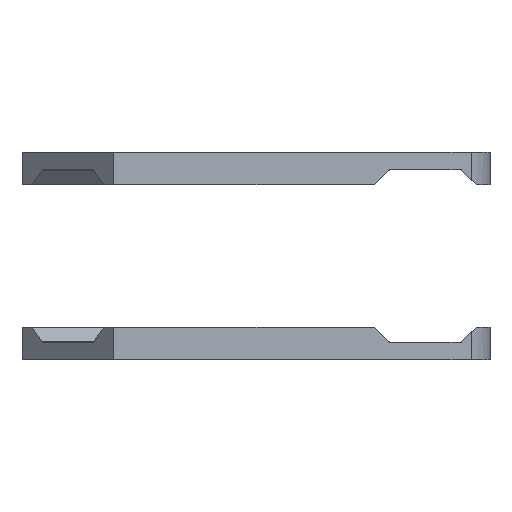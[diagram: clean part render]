
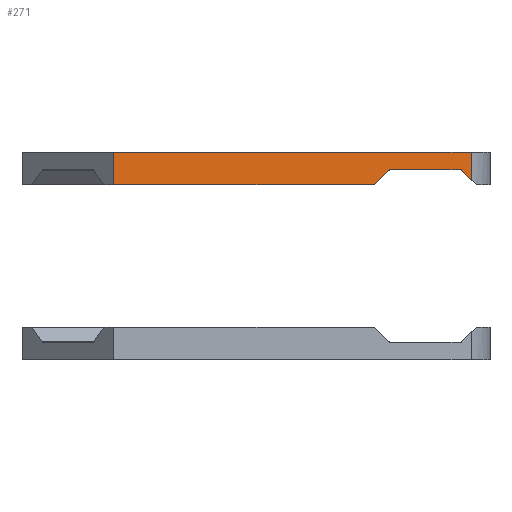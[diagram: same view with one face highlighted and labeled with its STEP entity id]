
A CAD part, left-side view. The second image highlights one B-rep face of the part: STEP entity #271.
In plain terms, the highlighted planar face has unit normal (-0.707, -0.707, 0).
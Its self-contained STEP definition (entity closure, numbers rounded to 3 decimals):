
#271=ADVANCED_FACE('Pad.1',(#667),#668,.T.);
#667=FACE_OUTER_BOUND('',#1216,.T.);
#668=PLANE('',#1217);
#1216=EDGE_LOOP('',(#1996,#1997,#1998,#1999,#2000,#2001,#2002,#2003,#2004));
#1217=AXIS2_PLACEMENT_3D('',#2005,#2006,#2007);
#1996=ORIENTED_EDGE('',*,*,#3391,.F.);
#1997=ORIENTED_EDGE('',*,*,#3366,.F.);
#1998=ORIENTED_EDGE('',*,*,#3392,.T.);
#1999=ORIENTED_EDGE('',*,*,#3393,.T.);
#2000=ORIENTED_EDGE('',*,*,#3394,.T.);
#2001=ORIENTED_EDGE('',*,*,#3328,.T.);
#2002=ORIENTED_EDGE('',*,*,#3389,.T.);
#2003=ORIENTED_EDGE('',*,*,#3395,.T.);
#2004=ORIENTED_EDGE('',*,*,#3396,.T.);
#2005=CARTESIAN_POINT('',(-186.676,144.25,0.0));
#2006=DIRECTION('',(-0.707,-0.707,0.0));
#2007=DIRECTION('',(0.707,-0.707,0.0));
#3328=EDGE_CURVE('',#4042,#4040,#4043,.T.);
#3366=EDGE_CURVE('',#4095,#4097,#4098,.T.);
#3389=EDGE_CURVE('',#4040,#4133,#4135,.F.);
#3391=EDGE_CURVE('',#4097,#4137,#4138,.T.);
#3392=EDGE_CURVE('',#4095,#4139,#4140,.T.);
#3393=EDGE_CURVE('',#4139,#4141,#4142,.T.);
#3394=EDGE_CURVE('',#4141,#4042,#4143,.F.);
#3395=EDGE_CURVE('',#4133,#4144,#4145,.T.);
#3396=EDGE_CURVE('',#4144,#4137,#4146,.T.);
#4040=VERTEX_POINT('',#5015);
#4042=VERTEX_POINT('',#5018);
#4043=LINE('',#5019,#5020);
#4095=VERTEX_POINT('',#5079);
#4097=VERTEX_POINT('',#5082);
#4098=LINE('',#5083,#5084);
#4133=VERTEX_POINT('',#5136);
#4135=B_SPLINE_CURVE_WITH_KNOTS('',5,(#5139,#5140,#5141,#5142,#5143,#5144,#5145,#5146,#5147),.UNSPECIFIED.,.F.,.F.,(6,3,6),(0.0,1.018,1.496),.UNSPECIFIED.);
#4137=VERTEX_POINT('',#5149);
#4138=LINE('',#5150,#5151);
#4139=VERTEX_POINT('',#5152);
#4140=LINE('',#5153,#5154);
#4141=VERTEX_POINT('',#5155);
#4142=LINE('',#5156,#5157);
#4143=B_SPLINE_CURVE_WITH_KNOTS('',5,(#5158,#5159,#5160,#5161,#5162,#5163,#5164,#5165,#5166),.UNSPECIFIED.,.F.,.F.,(6,3,6),(0.0,1.225,1.496),.UNSPECIFIED.);
#4144=VERTEX_POINT('',#5167);
#4145=LINE('',#5168,#5169);
#4146=LINE('',#5170,#5171);
#5015=CARTESIAN_POINT('',(-26.272,-16.154,40.0));
#5018=CARTESIAN_POINT('',(-58.581,16.154,40.0));
#5019=CARTESIAN_POINT('',(-42.426,0.,40.0));
#5020=VECTOR('',#6177,1.0);
#5079=CARTESIAN_POINT('',(-186.676,144.25,33.0));
#5082=CARTESIAN_POINT('',(-186.676,144.25,48.0));
#5083=CARTESIAN_POINT('',(-186.676,144.25,40.5));
#5084=VECTOR('',#6261,1.0);
#5136=CARTESIAN_POINT('',(-25.565,-16.861,39.707));
#5139=CARTESIAN_POINT('',(-25.565,-16.861,39.707));
#5140=CARTESIAN_POINT('',(-25.648,-16.778,39.79));
#5141=CARTESIAN_POINT('',(-25.739,-16.687,39.857));
#5142=CARTESIAN_POINT('',(-25.835,-16.591,39.909));
#5143=CARTESIAN_POINT('',(-25.98,-16.446,39.965));
#5144=CARTESIAN_POINT('',(-26.129,-16.298,39.991));
#5145=CARTESIAN_POINT('',(-26.176,-16.25,39.997));
#5146=CARTESIAN_POINT('',(-26.224,-16.202,40.0));
#5147=CARTESIAN_POINT('',(-26.272,-16.154,40.0));
#5149=CARTESIAN_POINT('',(-21.213,-21.213,48.0));
#5150=CARTESIAN_POINT('',(-103.945,61.518,48.0));
#5151=VECTOR('',#6285,1.0);
#5152=CARTESIAN_POINT('',(-65.995,23.569,33.0));
#5153=CARTESIAN_POINT('',(-126.336,83.909,33.0));
#5154=VECTOR('',#6286,1.0);
#5155=CARTESIAN_POINT('',(-59.288,16.861,39.707));
#5156=CARTESIAN_POINT('',(-62.641,20.215,36.354));
#5157=VECTOR('',#6287,1.0);
#5158=CARTESIAN_POINT('',(-58.581,16.154,40.0));
#5159=CARTESIAN_POINT('',(-58.703,16.277,40.0));
#5160=CARTESIAN_POINT('',(-58.826,16.399,39.981));
#5161=CARTESIAN_POINT('',(-58.946,16.52,39.944));
#5162=CARTESIAN_POINT('',(-59.089,16.663,39.874));
#5163=CARTESIAN_POINT('',(-59.22,16.793,39.77));
#5164=CARTESIAN_POINT('',(-59.243,16.817,39.75));
#5165=CARTESIAN_POINT('',(-59.266,16.839,39.729));
#5166=CARTESIAN_POINT('',(-59.288,16.861,39.707));
#5167=CARTESIAN_POINT('',(-21.213,-21.213,35.355));
#5168=CARTESIAN_POINT('',(-23.389,-19.037,37.531));
#5169=VECTOR('',#6288,1.0);
#5170=CARTESIAN_POINT('',(-21.213,-21.213,41.678));
#5171=VECTOR('',#6289,1.0);
#6177=DIRECTION('',(0.707,-0.707,0.0));
#6261=DIRECTION('',(0.0,0.0,1.0));
#6285=DIRECTION('',(0.707,-0.707,0.0));
#6286=DIRECTION('',(0.707,-0.707,0.0));
#6287=DIRECTION('',(0.577,-0.577,0.577));
#6288=DIRECTION('',(0.577,-0.577,-0.577));
#6289=DIRECTION('',(0.0,0.0,1.0));
